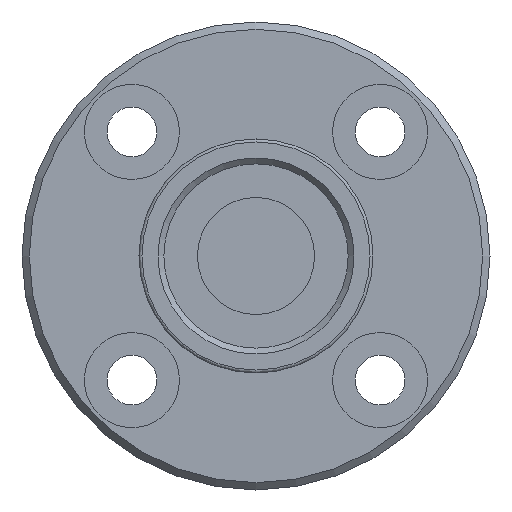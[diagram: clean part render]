
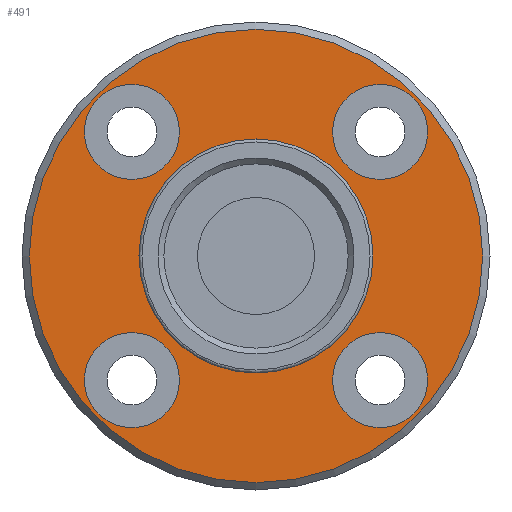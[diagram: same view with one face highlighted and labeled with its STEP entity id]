
A CAD part, front view. The second image highlights one B-rep face of the part: STEP entity #491.
In plain terms, the highlighted planar face has unit normal (0, -1, 0).
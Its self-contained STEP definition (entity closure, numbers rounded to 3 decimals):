
#101=CARTESIAN_POINT('',(-5.235,-22.5,-8.485));
#102=VERTEX_POINT('',#101);
#103=CARTESIAN_POINT('',(-8.485,-22.5,-8.485));
#104=DIRECTION('',(0.0,1.0,0.0));
#105=DIRECTION('',(1.0,0.0,0.0));
#106=AXIS2_PLACEMENT_3D('',#103,#104,#105);
#107=CIRCLE('',#106,3.25);
#108=EDGE_CURVE('',#102,#102,#107,.T.);
#169=CARTESIAN_POINT('',(11.735,-22.5,-8.485));
#170=VERTEX_POINT('',#169);
#171=CARTESIAN_POINT('',(8.485,-22.5,-8.485));
#172=DIRECTION('',(0.0,1.0,0.0));
#173=DIRECTION('',(1.0,0.0,0.0));
#174=AXIS2_PLACEMENT_3D('',#171,#172,#173);
#175=CIRCLE('',#174,3.25);
#176=EDGE_CURVE('',#170,#170,#175,.T.);
#237=CARTESIAN_POINT('',(11.735,-22.5,8.485));
#238=VERTEX_POINT('',#237);
#239=CARTESIAN_POINT('',(8.485,-22.5,8.485));
#240=DIRECTION('',(0.0,1.0,0.0));
#241=DIRECTION('',(1.0,0.0,0.0));
#242=AXIS2_PLACEMENT_3D('',#239,#240,#241);
#243=CIRCLE('',#242,3.25);
#244=EDGE_CURVE('',#238,#238,#243,.T.);
#305=CARTESIAN_POINT('',(-5.235,-22.5,8.485));
#306=VERTEX_POINT('',#305);
#307=CARTESIAN_POINT('',(-8.485,-22.5,8.485));
#308=DIRECTION('',(0.0,1.0,0.0));
#309=DIRECTION('',(1.0,0.0,0.0));
#310=AXIS2_PLACEMENT_3D('',#307,#308,#309);
#311=CIRCLE('',#310,3.25);
#312=EDGE_CURVE('',#306,#306,#311,.T.);
#345=CARTESIAN_POINT('',(8.,-22.5,0.0));
#346=VERTEX_POINT('',#345);
#347=CARTESIAN_POINT('',(0.0,-22.5,0.0));
#348=DIRECTION('',(0.0,-1.0,0.0));
#349=DIRECTION('',(1.0,0.0,0.0));
#350=AXIS2_PLACEMENT_3D('',#347,#348,#349);
#351=CIRCLE('',#350,8.);
#352=EDGE_CURVE('',#346,#346,#351,.T.);
#453=CARTESIAN_POINT('',(15.5,-22.5,0.0));
#454=VERTEX_POINT('',#453);
#455=CARTESIAN_POINT('',(0.0,-22.5,0.0));
#456=DIRECTION('',(0.0,-1.0,0.0));
#457=DIRECTION('',(1.0,0.0,0.0));
#458=AXIS2_PLACEMENT_3D('',#455,#456,#457);
#459=CIRCLE('',#458,15.5);
#460=EDGE_CURVE('',#454,#454,#459,.T.);
#468=CARTESIAN_POINT('',(11.75,-22.5,0.0));
#469=DIRECTION('',(0.0,-1.0,0.0));
#470=DIRECTION('',(0.0,0.0,-1.0));
#471=AXIS2_PLACEMENT_3D('',#468,#469,#470);
#472=PLANE('',#471);
#473=ORIENTED_EDGE('',*,*,#460,.T.);
#474=EDGE_LOOP('',(#473));
#475=FACE_OUTER_BOUND('',#474,.T.);
#476=ORIENTED_EDGE('',*,*,#108,.T.);
#477=EDGE_LOOP('',(#476));
#478=FACE_BOUND('',#477,.T.);
#479=ORIENTED_EDGE('',*,*,#176,.T.);
#480=EDGE_LOOP('',(#479));
#481=FACE_BOUND('',#480,.T.);
#482=ORIENTED_EDGE('',*,*,#244,.T.);
#483=EDGE_LOOP('',(#482));
#484=FACE_BOUND('',#483,.T.);
#485=ORIENTED_EDGE('',*,*,#312,.T.);
#486=EDGE_LOOP('',(#485));
#487=FACE_BOUND('',#486,.T.);
#488=ORIENTED_EDGE('',*,*,#352,.F.);
#489=EDGE_LOOP('',(#488));
#490=FACE_BOUND('',#489,.T.);
#491=ADVANCED_FACE('',(#475,#478,#481,#484,#487,#490),#472,.T.);
